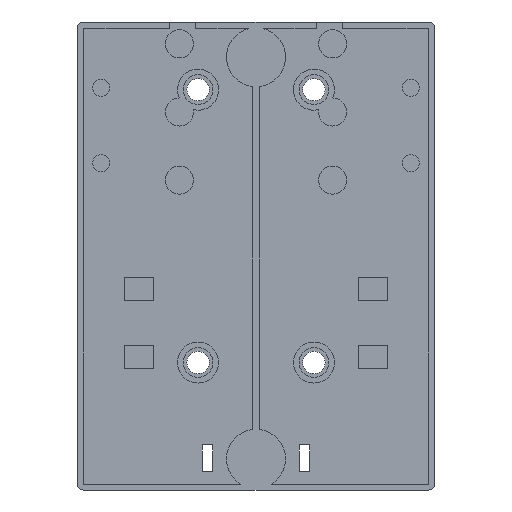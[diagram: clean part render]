
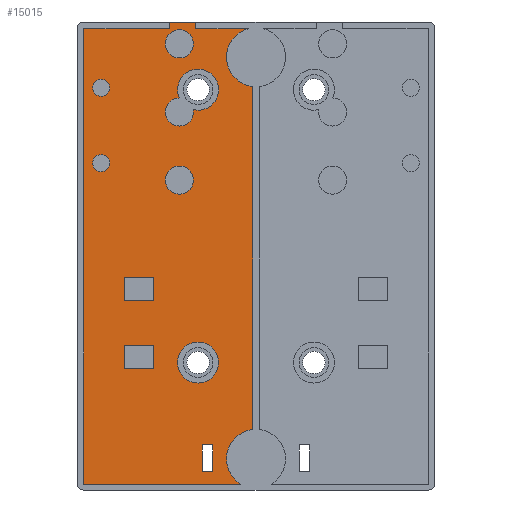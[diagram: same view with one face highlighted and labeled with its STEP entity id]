
A CAD part, front view. The second image highlights one B-rep face of the part: STEP entity #15015.
In plain terms, the highlighted planar face has unit normal (0, -1, 0).
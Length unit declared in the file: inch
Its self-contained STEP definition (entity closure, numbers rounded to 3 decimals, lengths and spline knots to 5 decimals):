
#606=FACE_BOUND('',#2199,.T.);
#607=FACE_BOUND('',#2200,.T.);
#608=FACE_BOUND('',#2201,.T.);
#609=FACE_BOUND('',#2202,.T.);
#610=FACE_BOUND('',#2203,.T.);
#611=FACE_BOUND('',#2204,.T.);
#612=FACE_BOUND('',#2205,.T.);
#613=FACE_BOUND('',#2206,.T.);
#614=FACE_BOUND('',#2207,.T.);
#728=PLANE('',#16060);
#1335=FACE_OUTER_BOUND('',#2198,.T.);
#2198=EDGE_LOOP('',(#10622,#10623,#10624,#10625,#10626,#10627,#10628,#10629,
#10630,#10631));
#2199=EDGE_LOOP('',(#10632,#10633,#10634,#10635));
#2200=EDGE_LOOP('',(#10636,#10637,#10638,#10639));
#2201=EDGE_LOOP('',(#10640,#10641,#10642,#10643));
#2202=EDGE_LOOP('',(#10644));
#2203=EDGE_LOOP('',(#10645));
#2204=EDGE_LOOP('',(#10646,#10647));
#2205=EDGE_LOOP('',(#10648));
#2206=EDGE_LOOP('',(#10649));
#2207=EDGE_LOOP('',(#10650));
#3178=LINE('',#21155,#4856);
#3180=LINE('',#21159,#4858);
#3182=LINE('',#21163,#4860);
#3184=LINE('',#21166,#4862);
#3194=LINE('',#21187,#4872);
#3196=LINE('',#21191,#4874);
#3198=LINE('',#21195,#4876);
#3200=LINE('',#21198,#4878);
#3202=LINE('',#21203,#4880);
#3205=LINE('',#21208,#4883);
#3207=LINE('',#21212,#4885);
#3208=LINE('',#21214,#4886);
#3212=LINE('',#21232,#4890);
#3213=LINE('',#21234,#4891);
#3214=LINE('',#21236,#4892);
#3215=LINE('',#21238,#4893);
#3216=LINE('',#21240,#4894);
#3217=LINE('',#21242,#4895);
#3218=LINE('',#21244,#4896);
#3219=LINE('',#21247,#4897);
#4856=VECTOR('',#17244,0.3937);
#4858=VECTOR('',#17248,0.3937);
#4860=VECTOR('',#17252,0.3937);
#4862=VECTOR('',#17256,0.3937);
#4872=VECTOR('',#17276,0.3937);
#4874=VECTOR('',#17280,0.3937);
#4876=VECTOR('',#17284,0.3937);
#4878=VECTOR('',#17288,0.3937);
#4880=VECTOR('',#17292,0.3937);
#4883=VECTOR('',#17297,0.3937);
#4885=VECTOR('',#17301,0.3937);
#4886=VECTOR('',#17304,0.3937);
#4890=VECTOR('',#17324,0.3937);
#4891=VECTOR('',#17325,0.3937);
#4892=VECTOR('',#17326,0.3937);
#4893=VECTOR('',#17327,0.3937);
#4894=VECTOR('',#17328,0.3937);
#4895=VECTOR('',#17329,0.3937);
#4896=VECTOR('',#17330,0.3937);
#4897=VECTOR('',#17333,0.3937);
#6486=CIRCLE('',#16055,0.1925);
#6487=CIRCLE('',#16057,0.1925);
#6488=CIRCLE('',#16059,0.132);
#6489=CIRCLE('',#16061,0.277);
#6490=CIRCLE('',#16062,0.277);
#6491=CIRCLE('',#16063,0.132);
#6492=CIRCLE('',#16064,0.132);
#6493=CIRCLE('',#16065,0.08);
#6494=CIRCLE('',#16066,0.08);
#6825=VERTEX_POINT('',#21152);
#6826=VERTEX_POINT('',#21154);
#6827=VERTEX_POINT('',#21158);
#6828=VERTEX_POINT('',#21162);
#6833=VERTEX_POINT('',#21184);
#6834=VERTEX_POINT('',#21186);
#6835=VERTEX_POINT('',#21190);
#6836=VERTEX_POINT('',#21194);
#6837=VERTEX_POINT('',#21200);
#6838=VERTEX_POINT('',#21202);
#6839=VERTEX_POINT('',#21206);
#6840=VERTEX_POINT('',#21210);
#6841=VERTEX_POINT('',#21216);
#6842=VERTEX_POINT('',#21218);
#6843=VERTEX_POINT('',#21222);
#6844=VERTEX_POINT('',#21228);
#6845=VERTEX_POINT('',#21229);
#6846=VERTEX_POINT('',#21231);
#6847=VERTEX_POINT('',#21233);
#6848=VERTEX_POINT('',#21235);
#6849=VERTEX_POINT('',#21237);
#6850=VERTEX_POINT('',#21239);
#6851=VERTEX_POINT('',#21241);
#6852=VERTEX_POINT('',#21243);
#6853=VERTEX_POINT('',#21245);
#6854=VERTEX_POINT('',#21248);
#6855=VERTEX_POINT('',#21250);
#6856=VERTEX_POINT('',#21252);
#6857=VERTEX_POINT('',#21254);
#8295=EDGE_CURVE('',#6826,#6825,#3178,.T.);
#8297=EDGE_CURVE('',#6827,#6826,#3180,.T.);
#8299=EDGE_CURVE('',#6828,#6827,#3182,.T.);
#8301=EDGE_CURVE('',#6825,#6828,#3184,.T.);
#8311=EDGE_CURVE('',#6834,#6833,#3194,.T.);
#8313=EDGE_CURVE('',#6835,#6834,#3196,.T.);
#8315=EDGE_CURVE('',#6836,#6835,#3198,.T.);
#8317=EDGE_CURVE('',#6833,#6836,#3200,.T.);
#8319=EDGE_CURVE('',#6838,#6837,#3202,.T.);
#8322=EDGE_CURVE('',#6837,#6839,#3205,.T.);
#8324=EDGE_CURVE('',#6839,#6840,#3207,.T.);
#8325=EDGE_CURVE('',#6840,#6838,#3208,.T.);
#8328=EDGE_CURVE('',#6841,#6842,#6486,.T.);
#8329=EDGE_CURVE('',#6843,#6843,#6487,.T.);
#8331=EDGE_CURVE('',#6842,#6841,#6488,.T.);
#8332=EDGE_CURVE('',#6844,#6845,#6489,.T.);
#8333=EDGE_CURVE('',#6846,#6845,#3212,.F.);
#8334=EDGE_CURVE('',#6847,#6846,#3213,.T.);
#8335=EDGE_CURVE('',#6848,#6847,#3214,.T.);
#8336=EDGE_CURVE('',#6848,#6849,#3215,.T.);
#8337=EDGE_CURVE('',#6850,#6849,#3216,.F.);
#8338=EDGE_CURVE('',#6851,#6850,#3217,.F.);
#8339=EDGE_CURVE('',#6851,#6852,#3218,.T.);
#8340=EDGE_CURVE('',#6852,#6853,#6490,.T.);
#8341=EDGE_CURVE('',#6853,#6844,#3219,.T.);
#8342=EDGE_CURVE('',#6854,#6854,#6491,.T.);
#8343=EDGE_CURVE('',#6855,#6855,#6492,.T.);
#8344=EDGE_CURVE('',#6856,#6856,#6493,.T.);
#8345=EDGE_CURVE('',#6857,#6857,#6494,.T.);
#10622=ORIENTED_EDGE('',*,*,#8332,.T.);
#10623=ORIENTED_EDGE('',*,*,#8333,.F.);
#10624=ORIENTED_EDGE('',*,*,#8334,.F.);
#10625=ORIENTED_EDGE('',*,*,#8335,.F.);
#10626=ORIENTED_EDGE('',*,*,#8336,.T.);
#10627=ORIENTED_EDGE('',*,*,#8337,.F.);
#10628=ORIENTED_EDGE('',*,*,#8338,.F.);
#10629=ORIENTED_EDGE('',*,*,#8339,.T.);
#10630=ORIENTED_EDGE('',*,*,#8340,.T.);
#10631=ORIENTED_EDGE('',*,*,#8341,.T.);
#10632=ORIENTED_EDGE('',*,*,#8295,.T.);
#10633=ORIENTED_EDGE('',*,*,#8301,.T.);
#10634=ORIENTED_EDGE('',*,*,#8299,.T.);
#10635=ORIENTED_EDGE('',*,*,#8297,.T.);
#10636=ORIENTED_EDGE('',*,*,#8311,.T.);
#10637=ORIENTED_EDGE('',*,*,#8317,.T.);
#10638=ORIENTED_EDGE('',*,*,#8315,.T.);
#10639=ORIENTED_EDGE('',*,*,#8313,.T.);
#10640=ORIENTED_EDGE('',*,*,#8319,.T.);
#10641=ORIENTED_EDGE('',*,*,#8322,.T.);
#10642=ORIENTED_EDGE('',*,*,#8324,.T.);
#10643=ORIENTED_EDGE('',*,*,#8325,.T.);
#10644=ORIENTED_EDGE('',*,*,#8342,.T.);
#10645=ORIENTED_EDGE('',*,*,#8343,.T.);
#10646=ORIENTED_EDGE('',*,*,#8328,.T.);
#10647=ORIENTED_EDGE('',*,*,#8331,.T.);
#10648=ORIENTED_EDGE('',*,*,#8344,.T.);
#10649=ORIENTED_EDGE('',*,*,#8345,.T.);
#10650=ORIENTED_EDGE('',*,*,#8329,.T.);
#15015=ADVANCED_FACE('',(#1335,#606,#607,#608,#609,#610,#611,#612,#613,
#614),#728,.F.);
#16055=AXIS2_PLACEMENT_3D('',#21220,#17309,#17310);
#16057=AXIS2_PLACEMENT_3D('',#21223,#17313,#17314);
#16059=AXIS2_PLACEMENT_3D('',#21226,#17318,#17319);
#16060=AXIS2_PLACEMENT_3D('',#21227,#17320,#17321);
#16061=AXIS2_PLACEMENT_3D('',#21230,#17322,#17323);
#16062=AXIS2_PLACEMENT_3D('',#21246,#17331,#17332);
#16063=AXIS2_PLACEMENT_3D('',#21249,#17334,#17335);
#16064=AXIS2_PLACEMENT_3D('',#21251,#17336,#17337);
#16065=AXIS2_PLACEMENT_3D('',#21253,#17338,#17339);
#16066=AXIS2_PLACEMENT_3D('',#21255,#17340,#17341);
#17244=DIRECTION('',(0.,0.,-1.));
#17248=DIRECTION('',(1.,0.,0.));
#17252=DIRECTION('',(0.,0.,1.));
#17256=DIRECTION('',(-1.,0.,0.));
#17276=DIRECTION('',(0.,0.,1.));
#17280=DIRECTION('',(-1.,0.,0.));
#17284=DIRECTION('',(0.,0.,-1.));
#17288=DIRECTION('',(1.,0.,0.));
#17292=DIRECTION('',(1.,0.,0.));
#17297=DIRECTION('',(0.,0.,-1.));
#17301=DIRECTION('',(-1.,0.,0.));
#17304=DIRECTION('',(0.,0.,1.));
#17309=DIRECTION('center_axis',(0.,1.,0.));
#17310=DIRECTION('ref_axis',(1.,0.,0.));
#17313=DIRECTION('center_axis',(0.,1.,0.));
#17314=DIRECTION('ref_axis',(1.,0.,0.));
#17318=DIRECTION('center_axis',(0.,1.,0.));
#17319=DIRECTION('ref_axis',(-1.,0.,0.));
#17320=DIRECTION('center_axis',(0.,1.,0.));
#17321=DIRECTION('ref_axis',(0.,0.,1.));
#17322=DIRECTION('center_axis',(0.,1.,0.));
#17323=DIRECTION('ref_axis',(-1.,0.,0.));
#17324=DIRECTION('',(-1.,0.,0.));
#17325=DIRECTION('',(0.,0.,-1.));
#17326=DIRECTION('',(1.,0.,0.));
#17327=DIRECTION('',(0.,0.,-1.));
#17328=DIRECTION('',(-1.,0.,0.));
#17329=DIRECTION('',(0.,0.,-1.));
#17330=DIRECTION('',(1.,0.,0.));
#17331=DIRECTION('center_axis',(0.,1.,0.));
#17332=DIRECTION('ref_axis',(-1.,0.,0.));
#17333=DIRECTION('',(0.,0.,1.));
#17334=DIRECTION('center_axis',(0.,1.,0.));
#17335=DIRECTION('ref_axis',(-1.,0.,0.));
#17336=DIRECTION('center_axis',(0.,1.,0.));
#17337=DIRECTION('ref_axis',(-1.,0.,0.));
#17338=DIRECTION('center_axis',(0.,1.,0.));
#17339=DIRECTION('ref_axis',(1.,0.,0.));
#17340=DIRECTION('center_axis',(0.,1.,0.));
#17341=DIRECTION('ref_axis',(1.,0.,0.));
#21152=CARTESIAN_POINT('',(-0.9575,0.1225,0.2345));
#21154=CARTESIAN_POINT('',(-0.9575,0.1225,0.4565));
#21155=CARTESIAN_POINT('',(-0.9575,0.1225,0.22825));
#21158=CARTESIAN_POINT('',(-1.2325,0.1225,0.4565));
#21159=CARTESIAN_POINT('',(-0.61625,0.1225,0.4565));
#21162=CARTESIAN_POINT('',(-1.2325,0.1225,0.2345));
#21163=CARTESIAN_POINT('',(-1.2325,0.1225,0.11725));
#21166=CARTESIAN_POINT('',(-0.47875,0.1225,0.2345));
#21184=CARTESIAN_POINT('',(-0.504,0.1225,-1.1165));
#21186=CARTESIAN_POINT('',(-0.504,0.1225,-1.3665));
#21187=CARTESIAN_POINT('',(-0.504,0.1225,-0.68325));
#21190=CARTESIAN_POINT('',(-0.404,0.1225,-1.3665));
#21191=CARTESIAN_POINT('',(-0.202,0.1225,-1.3665));
#21194=CARTESIAN_POINT('',(-0.404,0.1225,-1.1165));
#21195=CARTESIAN_POINT('',(-0.404,0.1225,-0.55825));
#21198=CARTESIAN_POINT('',(-0.252,0.1225,-1.1165));
#21200=CARTESIAN_POINT('',(-0.9575,0.1225,-0.1805));
#21202=CARTESIAN_POINT('',(-1.2325,0.1225,-0.1805));
#21203=CARTESIAN_POINT('',(-0.61625,0.1225,-0.1805));
#21206=CARTESIAN_POINT('',(-0.9575,0.1225,-0.4025));
#21208=CARTESIAN_POINT('',(-0.9575,0.1225,-0.09025));
#21210=CARTESIAN_POINT('',(-1.2325,0.1225,-0.4025));
#21212=CARTESIAN_POINT('',(-0.47875,0.1225,-0.4025));
#21214=CARTESIAN_POINT('',(-1.2325,0.1225,-0.20125));
#21216=CARTESIAN_POINT('',(-0.71971,0.1225,2.13799));
#21218=CARTESIAN_POINT('',(-0.58788,0.1225,2.02819));
#21220=CARTESIAN_POINT('Origin',(-0.5435,0.1225,2.2155));
#21222=CARTESIAN_POINT('',(-0.736,0.1225,-0.3445));
#21223=CARTESIAN_POINT('Origin',(-0.5435,0.1225,-0.3445));
#21226=CARTESIAN_POINT('Origin',(-0.718,0.1225,2.006));
#21227=CARTESIAN_POINT('Origin',(0.,0.1225,0.));
#21228=CARTESIAN_POINT('',(-0.03125,0.1225,2.24477));
#21229=CARTESIAN_POINT('',(-0.07192,0.1225,2.7875));
#21230=CARTESIAN_POINT('Origin',(0.,0.1225,2.52));
#21231=CARTESIAN_POINT('',(-0.565,0.1225,2.7875));
#21232=CARTESIAN_POINT('',(-0.839,0.1225,2.7875));
#21233=CARTESIAN_POINT('',(-0.565,0.1225,2.85));
#21234=CARTESIAN_POINT('',(-0.565,0.1225,2.85));
#21235=CARTESIAN_POINT('',(-0.81,0.1225,2.85));
#21236=CARTESIAN_POINT('',(-1.244,0.1225,2.85));
#21237=CARTESIAN_POINT('',(-0.81,0.1225,2.7875));
#21238=CARTESIAN_POINT('',(-0.81,0.1225,2.85));
#21239=CARTESIAN_POINT('',(-1.6155,0.1225,2.7875));
#21240=CARTESIAN_POINT('',(-0.839,0.1225,2.7875));
#21241=CARTESIAN_POINT('',(-1.6155,0.1225,-1.485));
#21242=CARTESIAN_POINT('',(-1.6155,0.1225,-1.425));
#21243=CARTESIAN_POINT('',(-0.14256,0.1225,-1.485));
#21244=CARTESIAN_POINT('',(-0.01562,0.1225,-1.485));
#21245=CARTESIAN_POINT('',(-0.03125,0.1225,-0.97227));
#21246=CARTESIAN_POINT('Origin',(0.,0.1225,-1.2475));
#21247=CARTESIAN_POINT('',(-0.03125,0.1225,1.39375));
#21248=CARTESIAN_POINT('',(-0.586,0.1225,1.367));
#21249=CARTESIAN_POINT('Origin',(-0.718,0.1225,1.367));
#21250=CARTESIAN_POINT('',(-0.586,0.1225,2.645));
#21251=CARTESIAN_POINT('Origin',(-0.718,0.1225,2.645));
#21252=CARTESIAN_POINT('',(-1.533,0.1225,2.234));
#21253=CARTESIAN_POINT('Origin',(-1.453,0.1225,2.234));
#21254=CARTESIAN_POINT('',(-1.533,0.1225,1.527));
#21255=CARTESIAN_POINT('Origin',(-1.453,0.1225,1.527));
